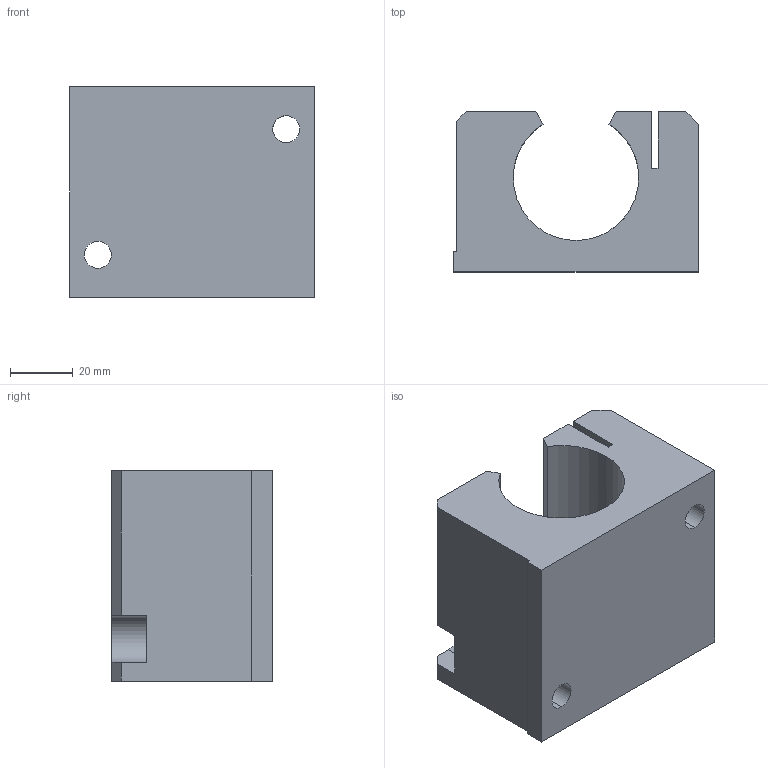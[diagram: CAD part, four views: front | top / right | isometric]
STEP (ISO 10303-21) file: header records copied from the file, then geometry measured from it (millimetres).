
FILE_DESCRIPTION (( 'STEP AP214' ), '1' );
FILE_NAME ('KGOE38-25.step', '2020-03-04T13:22:51', ( '' ), ( '' ), 'SwSTEP 2.0', 'SolidWorks 2019', '' );
FILE_SCHEMA (( 'AUTOMOTIVE_DESIGN' ));
Length unit declared in the file: millimetre
Products named in the file (1): KGOE38-25
Bounding box: 78 x 51 x 67 mm (x, y, z)
Volume: 161934.1 mm3; surface area: 33524.3 mm2
Topology: 1 solids, 1 shells, 53 faces, 155 edges, 102 vertices
Faces by surface type: plane 30, cylinder 21, cone 2
Entity records: 2029 total; most frequent: CARTESIAN_POINT 425, ORIENTED_EDGE 310, DIRECTION 299, EDGE_CURVE 155, VECTOR 107, LINE 107, VERTEX_POINT 102, AXIS2_PLACEMENT_3D 96
